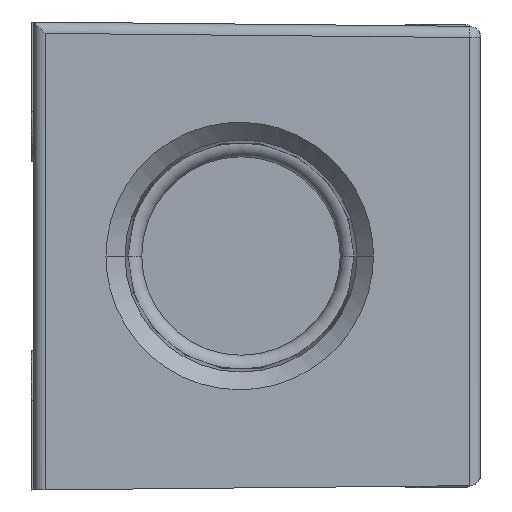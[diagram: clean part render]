
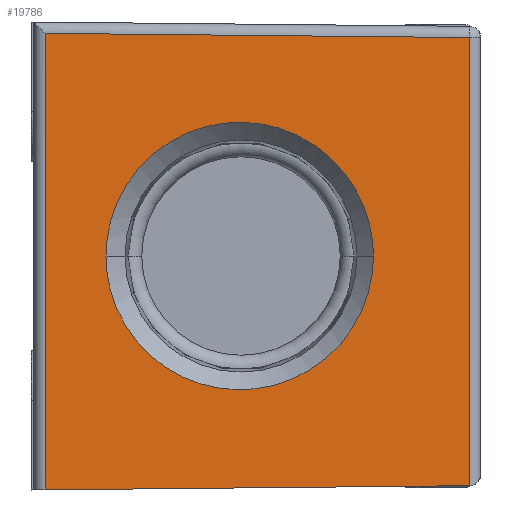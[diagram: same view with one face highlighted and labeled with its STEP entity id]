
A CAD part, front view. The second image highlights one B-rep face of the part: STEP entity #19786.
In plain terms, the highlighted planar face has unit normal (0.01, -1, 0).
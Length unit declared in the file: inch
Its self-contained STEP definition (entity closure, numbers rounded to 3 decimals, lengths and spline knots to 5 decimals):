
#5689=DIRECTION('',(0.,0.,1.));
#5690=VECTOR('',#5689,1.82891);
#5691=CARTESIAN_POINT('',(-0.79956,-3.68445,
-0.93695));
#5692=LINE('',#5691,#5690);
#5703=DIRECTION('',(-1.,-0.01,0.01));
#5704=VECTOR('',#5703,1.70017);
#5705=CARTESIAN_POINT('',(0.90044,-3.66769,
0.87519));
#5706=LINE('',#5705,#5704);
#5743=DIRECTION('',(-1.,-0.01,-0.01));
#5744=VECTOR('',#5743,1.70017);
#5745=CARTESIAN_POINT('',(0.90044,-3.66769,
-0.92019));
#5746=LINE('',#5745,#5744);
#5747=CARTESIAN_POINT('',(0.51549,-3.67149,0.));
#5748=CARTESIAN_POINT('',(0.51549,-3.67149,
-0.03157));
#5749=CARTESIAN_POINT('',(0.50988,-3.67154,
-0.09707));
#5750=CARTESIAN_POINT('',(0.48145,-3.67182,
-0.19781));
#5751=CARTESIAN_POINT('',(0.43154,-3.67231,
-0.2949));
#5752=CARTESIAN_POINT('',(0.3613,-3.67301,
-0.38156));
#5753=CARTESIAN_POINT('',(0.27463,-3.67386,
-0.45181));
#5754=CARTESIAN_POINT('',(0.19372,-3.67466,
-0.49338));
#5755=CARTESIAN_POINT('',(0.12716,-3.67531,
-0.51593));
#5756=CARTESIAN_POINT('',(0.0771,-3.67581,
-0.52763));
#5757=CARTESIAN_POINT('',(0.03591,-3.67621,
-0.53323));
#5758=CARTESIAN_POINT('',(0.00352,-3.67653,
-0.53539));
#5759=CARTESIAN_POINT('',(-0.02028,-3.67677,
-0.53592));
#5760=CARTESIAN_POINT('',(-0.04409,-3.677,
-0.53539));
#5761=CARTESIAN_POINT('',(-0.07647,-3.67732,
-0.53323));
#5762=CARTESIAN_POINT('',(-0.11767,-3.67773,
-0.52763));
#5763=CARTESIAN_POINT('',(-0.16773,-3.67822,
-0.51593));
#5764=CARTESIAN_POINT('',(-0.23429,-3.67888,
-0.49338));
#5765=CARTESIAN_POINT('',(-0.3152,-3.67968,
-0.45181));
#5766=CARTESIAN_POINT('',(-0.40187,-3.68053,
-0.38156));
#5767=CARTESIAN_POINT('',(-0.47211,-3.68122,
-0.2949));
#5768=CARTESIAN_POINT('',(-0.52201,-3.68172,
-0.19781));
#5769=CARTESIAN_POINT('',(-0.55044,-3.682,
-0.09707));
#5770=CARTESIAN_POINT('',(-0.55605,-3.68205,
-0.03157));
#5771=CARTESIAN_POINT('',(-0.55605,-3.68205,0.));
#5773=CARTESIAN_POINT('',(-0.55605,-3.68205,0.));
#5774=CARTESIAN_POINT('',(-0.55605,-3.68205,
0.03157));
#5775=CARTESIAN_POINT('',(-0.55044,-3.682,
0.09707));
#5776=CARTESIAN_POINT('',(-0.52201,-3.68172,
0.19781));
#5777=CARTESIAN_POINT('',(-0.47211,-3.68122,
0.2949));
#5778=CARTESIAN_POINT('',(-0.40187,-3.68053,
0.38156));
#5779=CARTESIAN_POINT('',(-0.3152,-3.67968,
0.45181));
#5780=CARTESIAN_POINT('',(-0.23429,-3.67888,
0.49338));
#5781=CARTESIAN_POINT('',(-0.16773,-3.67822,
0.51593));
#5782=CARTESIAN_POINT('',(-0.11767,-3.67773,
0.52763));
#5783=CARTESIAN_POINT('',(-0.07647,-3.67732,
0.53323));
#5784=CARTESIAN_POINT('',(-0.04409,-3.677,
0.53539));
#5785=CARTESIAN_POINT('',(-0.02028,-3.67677,
0.53592));
#5786=CARTESIAN_POINT('',(0.00352,-3.67653,
0.53539));
#5787=CARTESIAN_POINT('',(0.03591,-3.67621,
0.53323));
#5788=CARTESIAN_POINT('',(0.0771,-3.67581,
0.52763));
#5789=CARTESIAN_POINT('',(0.12716,-3.67531,
0.51593));
#5790=CARTESIAN_POINT('',(0.19372,-3.67466,
0.49338));
#5791=CARTESIAN_POINT('',(0.27463,-3.67386,
0.45181));
#5792=CARTESIAN_POINT('',(0.3613,-3.67301,
0.38156));
#5793=CARTESIAN_POINT('',(0.43154,-3.67231,
0.2949));
#5794=CARTESIAN_POINT('',(0.48145,-3.67182,
0.19781));
#5795=CARTESIAN_POINT('',(0.50988,-3.67154,
0.09707));
#5796=CARTESIAN_POINT('',(0.51549,-3.67149,
0.03157));
#5797=CARTESIAN_POINT('',(0.51549,-3.67149,0.));
#5803=DIRECTION('',(0.,0.,-1.));
#5804=VECTOR('',#5803,1.79538);
#5805=CARTESIAN_POINT('',(0.90044,-3.66769,
0.87519));
#5806=LINE('',#5805,#5804);
#10043=CARTESIAN_POINT('',(0.51549,-3.67149,0.));
#10044=VERTEX_POINT('',#10043);
#10045=CARTESIAN_POINT('',(-0.55605,-3.68205,0.));
#10046=VERTEX_POINT('',#10045);
#10115=CARTESIAN_POINT('',(0.90044,-3.66769,
0.87519));
#10116=CARTESIAN_POINT('',(0.90044,-3.66769,
-0.92019));
#10117=VERTEX_POINT('',#10115);
#10118=VERTEX_POINT('',#10116);
#10129=CARTESIAN_POINT('',(-0.79956,-3.68445,
0.89196));
#10130=VERTEX_POINT('',#10129);
#10135=CARTESIAN_POINT('',(-0.79956,-3.68445,
-0.93695));
#10136=VERTEX_POINT('',#10135);
#19768=CARTESIAN_POINT('',(-0.855,-3.685,-1.9922));
#19769=DIRECTION('',(0.01,-1.,0.));
#19770=DIRECTION('',(0.,0.,1.));
#19771=AXIS2_PLACEMENT_3D('',#19768,#19769,#19770);
#19772=PLANE('',#19771);
#19774=ORIENTED_EDGE('',*,*,#19773,.T.);
#19775=ORIENTED_EDGE('',*,*,#18258,.T.);
#19776=ORIENTED_EDGE('',*,*,#19747,.T.);
#19777=ORIENTED_EDGE('',*,*,#19758,.F.);
#19778=EDGE_LOOP('',(#19774,#19775,#19776,#19777));
#19779=FACE_OUTER_BOUND('',#19778,.F.);
#19781=ORIENTED_EDGE('',*,*,#19780,.F.);
#19783=ORIENTED_EDGE('',*,*,#19782,.F.);
#19784=EDGE_LOOP('',(#19781,#19783));
#19785=FACE_BOUND('',#19784,.F.);
#19786=ADVANCED_FACE('',(#19779,#19785),#19772,.T.);
#5772=B_SPLINE_CURVE_WITH_KNOTS('',3,(#5747,#5748,#5749,#5750,#5751,#5752,#5753,
#5754,#5755,#5756,#5757,#5758,#5759,#5760,#5761,#5762,#5763,#5764,#5765,#5766,
#5767,#5768,#5769,#5770,#5771),.UNSPECIFIED.,.F.,.F.,(4,1,1,1,1,1,1,1,1,1,1,1,1,
1,1,1,1,1,1,1,1,1,4),(0.,0.0625,0.125,0.1875,0.25,0.3125,0.375,
0.40625,0.4375,0.46875,0.48438,0.5,0.51563,0.53125,0.5625,
0.59375,0.625,0.6875,0.75,0.8125,0.875,0.9375,1.),
.UNSPECIFIED.);
#5798=B_SPLINE_CURVE_WITH_KNOTS('',3,(#5773,#5774,#5775,#5776,#5777,#5778,#5779,
#5780,#5781,#5782,#5783,#5784,#5785,#5786,#5787,#5788,#5789,#5790,#5791,#5792,
#5793,#5794,#5795,#5796,#5797),.UNSPECIFIED.,.F.,.F.,(4,1,1,1,1,1,1,1,1,1,1,1,1,
1,1,1,1,1,1,1,1,1,4),(0.,0.0625,0.125,0.1875,0.25,0.3125,0.375,
0.40625,0.4375,0.46875,0.48438,0.5,0.51563,0.53125,0.5625,
0.59375,0.625,0.6875,0.75,0.8125,0.875,0.9375,1.),
.UNSPECIFIED.);
#18258=EDGE_CURVE('',#10118,#10136,#5746,.T.);
#19747=EDGE_CURVE('',#10136,#10130,#5692,.T.);
#19758=EDGE_CURVE('',#10117,#10130,#5706,.T.);
#19773=EDGE_CURVE('',#10117,#10118,#5806,.T.);
#19780=EDGE_CURVE('',#10044,#10046,#5772,.T.);
#19782=EDGE_CURVE('',#10046,#10044,#5798,.T.);
